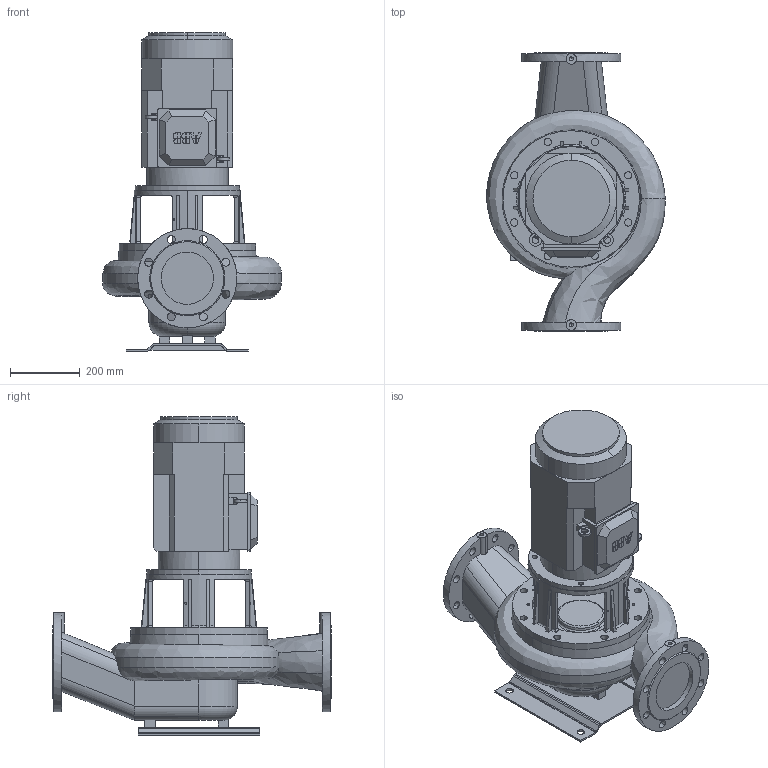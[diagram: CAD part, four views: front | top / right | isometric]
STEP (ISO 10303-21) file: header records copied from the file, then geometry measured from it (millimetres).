
FILE_DESCRIPTION(('STEP AP214'),'1');
FILE_NAME('export.stp','2018-05-29T13:26:48',(' '),(' '),'Spatial InterOp 3D',' ',' ');
FILE_SCHEMA(('AUTOMOTIVE_DESIGN { 1 0 10303 214 1 1 1 1 }'));
Length unit declared in the file: millimetre
Products named in the file (9): W_AL11544SD750; V_TL110611291154; P100496; P100495; P100342; V_PPAL1154; IEC132_FRAME; IEC-132; P100906
Assembly tree (9 placements, depth 3):
  W_AL11544SD750
    V_TL110611291154
    P100496
      P100495  x2
      P100342
    V_PPAL1154
    IEC132_FRAME
      IEC-132
      P100906
Bounding box: 512.92 x 800 x 915 mm (x, y, z)
Volume: 64904022.8 mm3; surface area: 2690785.1 mm2
Topology: 7 solids, 7 shells, 596 faces, 1626 edges, 1073 vertices
Faces by surface type: plane 256, cylinder 252, cone 34, torus 30, bspline 24
Entity records: 26723 total; most frequent: CARTESIAN_POINT 7310, ORIENTED_EDGE 3208, DIRECTION 3073, EDGE_CURVE 1604, AXIS2_PLACEMENT_3D 1141, VERTEX_POINT 1065, LINE 791, VECTOR 791
